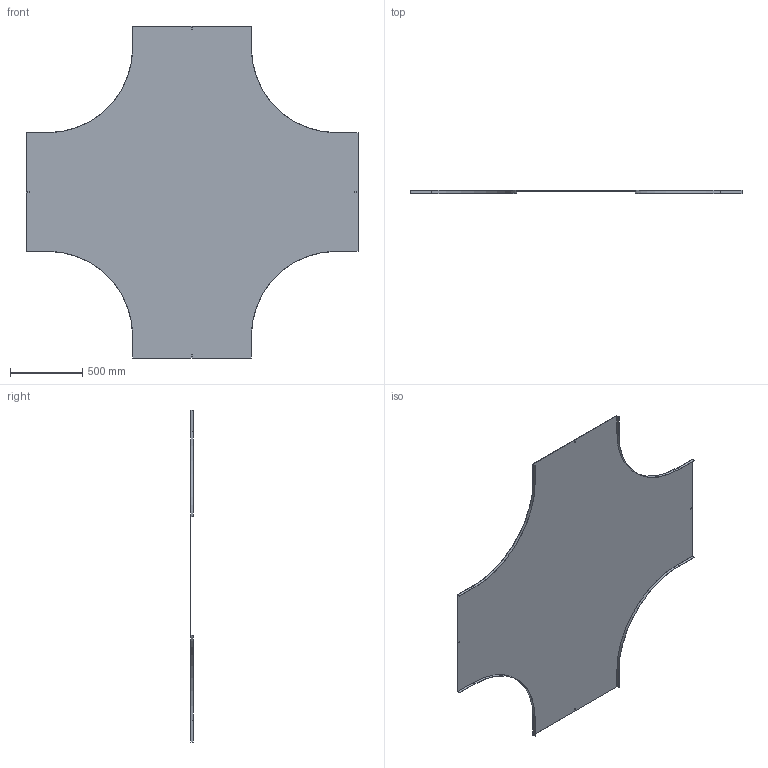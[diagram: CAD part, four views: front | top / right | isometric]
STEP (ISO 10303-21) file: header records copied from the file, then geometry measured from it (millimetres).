
FILE_DESCRIPTION (( 'STEP AP214' ), '1' );
FILE_NAME ('17N6P800.step', '2025-02-21T13:57:51', ( '' ), ( '' ), 'SwSTEP 2.0', 'SolidWorks 2023', '' );
FILE_SCHEMA (( 'AUTOMOTIVE_DESIGN' ));
Length unit declared in the file: millimetre
Products named in the file (1): 17N6P800
Bounding box: 2300 x 20 x 2300 mm (x, y, z)
Volume: 5244337.4 mm3; surface area: 7005142.4 mm2
Topology: 1 solids, 1 shells, 50 faces, 144 edges, 96 vertices
Faces by surface type: plane 42, cylinder 8
Entity records: 1663 total; most frequent: CARTESIAN_POINT 291, ORIENTED_EDGE 288, DIRECTION 262, EDGE_CURVE 144, VECTOR 128, LINE 128, VERTEX_POINT 96, AXIS2_PLACEMENT_3D 67
